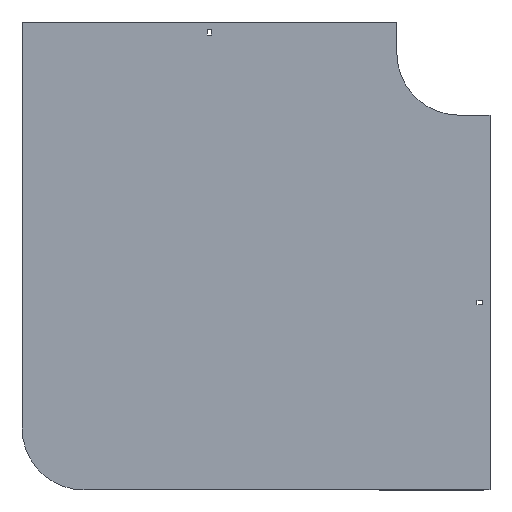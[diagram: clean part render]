
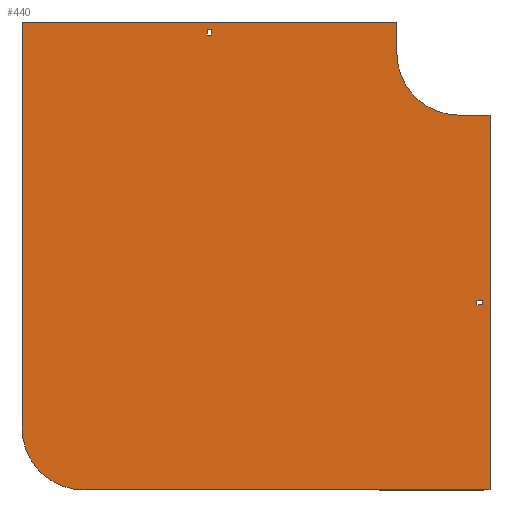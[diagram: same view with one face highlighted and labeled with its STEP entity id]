
A CAD part, front view. The second image highlights one B-rep face of the part: STEP entity #440.
In plain terms, the highlighted planar face has unit normal (0, -1, 0).
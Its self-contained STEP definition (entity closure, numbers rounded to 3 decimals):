
#10 = ORIENTED_EDGE ( 'NONE', *, *, #332, .F. ) ;
#18 = ORIENTED_EDGE ( 'NONE', *, *, #51, .F. ) ;
#24 = VECTOR ( 'NONE', #72, 1000. ) ;
#28 = CARTESIAN_POINT ( 'NONE',  ( -704., 0., -604. ) ) ;
#51 = EDGE_CURVE ( 'NONE', #1681, #837, #316, .T. ) ;
#57 = DIRECTION ( 'NONE',  ( 0., 0., 1. ) ) ;
#60 = DIRECTION ( 'NONE',  ( 1., 0., 0. ) ) ;
#72 = DIRECTION ( 'NONE',  ( -1., 0., 0. ) ) ;
#75 = VERTEX_POINT ( 'NONE', #1210 ) ;
#98 = CARTESIAN_POINT ( 'NONE',  ( 29., 0., -405.25 ) ) ;
#110 = VERTEX_POINT ( 'NONE', #633 ) ;
#127 = CIRCLE ( 'NONE', #1082, 100. ) ;
#146 = CARTESIAN_POINT ( 'NONE',  ( -100., 0., 50. ) ) ;
#156 = CARTESIAN_POINT ( 'NONE',  ( -100., 0., 50. ) ) ;
#171 = CARTESIAN_POINT ( 'NONE',  ( -405.25, 0., 38. ) ) ;
#188 = ORIENTED_EDGE ( 'NONE', *, *, #1486, .F. ) ;
#200 = ORIENTED_EDGE ( 'NONE', *, *, #1650, .F. ) ;
#206 = VECTOR ( 'NONE', #654, 1000. ) ;
#208 = VERTEX_POINT ( 'NONE', #1427 ) ;
#210 = VECTOR ( 'NONE', #1867, 1000. ) ;
#227 = LINE ( 'NONE', #1609, #1468 ) ;
#230 = CARTESIAN_POINT ( 'NONE',  ( 29., 0., -398.75 ) ) ;
#244 = EDGE_CURVE ( 'NONE', #461, #394, #1279, .T. ) ;
#316 = LINE ( 'NONE', #156, #346 ) ;
#332 = EDGE_CURVE ( 'NONE', #208, #1120, #127, .T. ) ;
#339 = VECTOR ( 'NONE', #1645, 1000. ) ;
#343 = EDGE_CURVE ( 'NONE', #837, #586, #678, .T. ) ;
#346 = VECTOR ( 'NONE', #1357, 1000. ) ;
#358 = CARTESIAN_POINT ( 'NONE',  ( 38., 0., -405.25 ) ) ;
#372 = CARTESIAN_POINT ( 'NONE',  ( -100., 0., 0. ) ) ;
#373 = CARTESIAN_POINT ( 'NONE',  ( 0., 0., -100. ) ) ;
#377 = CARTESIAN_POINT ( 'NONE',  ( -405.25, 0., 29. ) ) ;
#385 = LINE ( 'NONE', #572, #604 ) ;
#394 = VERTEX_POINT ( 'NONE', #1700 ) ;
#399 = ORIENTED_EDGE ( 'NONE', *, *, #1566, .T. ) ;
#431 = VECTOR ( 'NONE', #1839, 1000. ) ;
#440 = ADVANCED_FACE ( 'NONE', ( #1158, #1300, #580 ), #1177, .T. ) ;
#461 = VERTEX_POINT ( 'NONE', #1613 ) ;
#490 = ORIENTED_EDGE ( 'NONE', *, *, #1770, .F. ) ;
#518 = LINE ( 'NONE', #28, #206 ) ;
#533 = LINE ( 'NONE', #373, #210 ) ;
#534 = CARTESIAN_POINT ( 'NONE',  ( 0., 0., 0. ) ) ;
#546 = DIRECTION ( 'NONE',  ( 0., 0., -1. ) ) ;
#572 = CARTESIAN_POINT ( 'NONE',  ( 29., 0., -405.25 ) ) ;
#580 = FACE_BOUND ( 'NONE', #675, .T. ) ;
#581 = ORIENTED_EDGE ( 'NONE', *, *, #1852, .F. ) ;
#586 = VERTEX_POINT ( 'NONE', #1318 ) ;
#604 = VECTOR ( 'NONE', #1614, 1000. ) ;
#624 = DIRECTION ( 'NONE',  ( 0., 0., -1. ) ) ;
#633 = CARTESIAN_POINT ( 'NONE',  ( 50., 0., -100. ) ) ;
#654 = DIRECTION ( 'NONE',  ( 0., 0., 1. ) ) ;
#675 = EDGE_LOOP ( 'NONE', ( #1477, #1364, #581, #1591 ) ) ;
#678 = CIRCLE ( 'NONE', #1949, 100. ) ;
#692 = LINE ( 'NONE', #699, #1145 ) ;
#699 = CARTESIAN_POINT ( 'NONE',  ( -398.75, 0., 29. ) ) ;
#736 = LINE ( 'NONE', #377, #1106 ) ;
#773 = ORIENTED_EDGE ( 'NONE', *, *, #1029, .F. ) ;
#797 = VECTOR ( 'NONE', #1181, 1000. ) ;
#823 = EDGE_CURVE ( 'NONE', #1845, #461, #692, .T. ) ;
#837 = VERTEX_POINT ( 'NONE', #372 ) ;
#894 = CARTESIAN_POINT ( 'NONE',  ( 38., 0., -405.25 ) ) ;
#903 = ORIENTED_EDGE ( 'NONE', *, *, #1086, .F. ) ;
#943 = EDGE_CURVE ( 'NONE', #1515, #75, #1788, .T. ) ;
#972 = LINE ( 'NONE', #171, #1907 ) ;
#1009 = EDGE_LOOP ( 'NONE', ( #188, #490, #10, #200, #773, #903, #1327, #18 ) ) ;
#1013 = VERTEX_POINT ( 'NONE', #1492 ) ;
#1029 = EDGE_CURVE ( 'NONE', #110, #1636, #1152, .T. ) ;
#1033 = LINE ( 'NONE', #98, #1194 ) ;
#1082 = AXIS2_PLACEMENT_3D ( 'NONE', #1319, #1836, #57 ) ;
#1086 = EDGE_CURVE ( 'NONE', #586, #110, #533, .T. ) ;
#1106 = VECTOR ( 'NONE', #1324, 1000. ) ;
#1120 = VERTEX_POINT ( 'NONE', #1718 ) ;
#1134 = DIRECTION ( 'NONE',  ( 0., -1., 0. ) ) ;
#1145 = VECTOR ( 'NONE', #1717, 1000. ) ;
#1152 = LINE ( 'NONE', #1355, #1762 ) ;
#1155 = CARTESIAN_POINT ( 'NONE',  ( 0., 0., 0. ) ) ;
#1158 = FACE_BOUND ( 'NONE', #1733, .T. ) ;
#1161 = VERTEX_POINT ( 'NONE', #230 ) ;
#1176 = CARTESIAN_POINT ( 'NONE',  ( 29., 0., -405.25 ) ) ;
#1177 = PLANE ( 'NONE',  #1761 ) ;
#1181 = DIRECTION ( 'NONE',  ( -1., 0., 0. ) ) ;
#1194 = VECTOR ( 'NONE', #1914, 1000. ) ;
#1196 = VERTEX_POINT ( 'NONE', #1797 ) ;
#1200 = ORIENTED_EDGE ( 'NONE', *, *, #823, .T. ) ;
#1202 = VERTEX_POINT ( 'NONE', #1176 ) ;
#1210 = CARTESIAN_POINT ( 'NONE',  ( 38., 0., -398.75 ) ) ;
#1272 = LINE ( 'NONE', #1848, #431 ) ;
#1279 = LINE ( 'NONE', #1577, #24 ) ;
#1300 = FACE_OUTER_BOUND ( 'NONE', #1009, .T. ) ;
#1318 = CARTESIAN_POINT ( 'NONE',  ( 0., 0., -100. ) ) ;
#1319 = CARTESIAN_POINT ( 'NONE',  ( -604., 0., -604. ) ) ;
#1324 = DIRECTION ( 'NONE',  ( 0., 0., 1. ) ) ;
#1327 = ORIENTED_EDGE ( 'NONE', *, *, #343, .F. ) ;
#1338 = LINE ( 'NONE', #1476, #797 ) ;
#1349 = ORIENTED_EDGE ( 'NONE', *, *, #1915, .T. ) ;
#1355 = CARTESIAN_POINT ( 'NONE',  ( 50., 0., -100. ) ) ;
#1357 = DIRECTION ( 'NONE',  ( 0., 0., -1. ) ) ;
#1364 = ORIENTED_EDGE ( 'NONE', *, *, #1862, .F. ) ;
#1423 = EDGE_CURVE ( 'NONE', #75, #1161, #1338, .T. ) ;
#1427 = CARTESIAN_POINT ( 'NONE',  ( -604., 0., -704. ) ) ;
#1435 = CARTESIAN_POINT ( 'NONE',  ( 50., 0., -704. ) ) ;
#1468 = VECTOR ( 'NONE', #1746, 1000. ) ;
#1476 = CARTESIAN_POINT ( 'NONE',  ( 29., 0., -398.75 ) ) ;
#1477 = ORIENTED_EDGE ( 'NONE', *, *, #943, .F. ) ;
#1486 = EDGE_CURVE ( 'NONE', #1196, #1681, #1272, .T. ) ;
#1492 = CARTESIAN_POINT ( 'NONE',  ( -405.25, 0., 38. ) ) ;
#1515 = VERTEX_POINT ( 'NONE', #358 ) ;
#1566 = EDGE_CURVE ( 'NONE', #1013, #1845, #972, .T. ) ;
#1577 = CARTESIAN_POINT ( 'NONE',  ( -405.25, 0., 29. ) ) ;
#1591 = ORIENTED_EDGE ( 'NONE', *, *, #1423, .F. ) ;
#1609 = CARTESIAN_POINT ( 'NONE',  ( 50., 0., -704. ) ) ;
#1613 = CARTESIAN_POINT ( 'NONE',  ( -398.75, 0., 29. ) ) ;
#1614 = DIRECTION ( 'NONE',  ( 1., 0., 0. ) ) ;
#1626 = ORIENTED_EDGE ( 'NONE', *, *, #244, .T. ) ;
#1636 = VERTEX_POINT ( 'NONE', #1435 ) ;
#1645 = DIRECTION ( 'NONE',  ( 0., 0., 1. ) ) ;
#1650 = EDGE_CURVE ( 'NONE', #1636, #208, #227, .T. ) ;
#1681 = VERTEX_POINT ( 'NONE', #146 ) ;
#1700 = CARTESIAN_POINT ( 'NONE',  ( -405.25, 0., 29. ) ) ;
#1717 = DIRECTION ( 'NONE',  ( 0., 0., -1. ) ) ;
#1718 = CARTESIAN_POINT ( 'NONE',  ( -704., 0., -604. ) ) ;
#1727 = DIRECTION ( 'NONE',  ( 0., 0., -1. ) ) ;
#1731 = CARTESIAN_POINT ( 'NONE',  ( -398.75, 0., 38. ) ) ;
#1733 = EDGE_LOOP ( 'NONE', ( #1349, #399, #1200, #1626 ) ) ;
#1746 = DIRECTION ( 'NONE',  ( -1., 0., 0. ) ) ;
#1761 = AXIS2_PLACEMENT_3D ( 'NONE', #534, #1902, #546 ) ;
#1762 = VECTOR ( 'NONE', #624, 1000. ) ;
#1770 = EDGE_CURVE ( 'NONE', #1120, #1196, #518, .T. ) ;
#1788 = LINE ( 'NONE', #894, #339 ) ;
#1797 = CARTESIAN_POINT ( 'NONE',  ( -704., 0., 50. ) ) ;
#1836 = DIRECTION ( 'NONE',  ( 0., 1., 0. ) ) ;
#1839 = DIRECTION ( 'NONE',  ( 1., 0., 0. ) ) ;
#1845 = VERTEX_POINT ( 'NONE', #1731 ) ;
#1848 = CARTESIAN_POINT ( 'NONE',  ( -704., 0., 50. ) ) ;
#1852 = EDGE_CURVE ( 'NONE', #1161, #1202, #1033, .T. ) ;
#1862 = EDGE_CURVE ( 'NONE', #1202, #1515, #385, .T. ) ;
#1867 = DIRECTION ( 'NONE',  ( 1., 0., 0. ) ) ;
#1902 = DIRECTION ( 'NONE',  ( 0., -1., 0. ) ) ;
#1907 = VECTOR ( 'NONE', #60, 1000. ) ;
#1914 = DIRECTION ( 'NONE',  ( 0., 0., -1. ) ) ;
#1915 = EDGE_CURVE ( 'NONE', #394, #1013, #736, .T. ) ;
#1949 = AXIS2_PLACEMENT_3D ( 'NONE', #1155, #1134, #1727 ) ;
